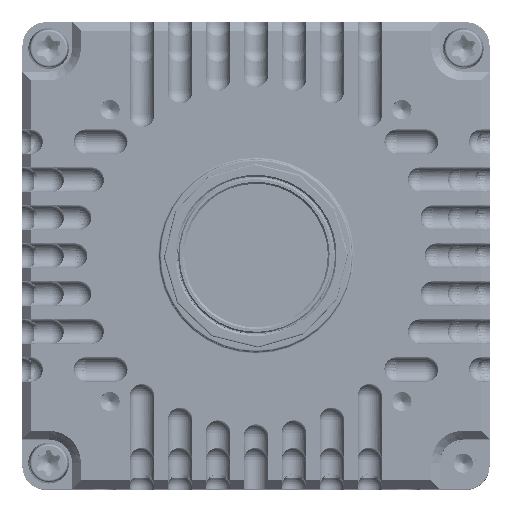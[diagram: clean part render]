
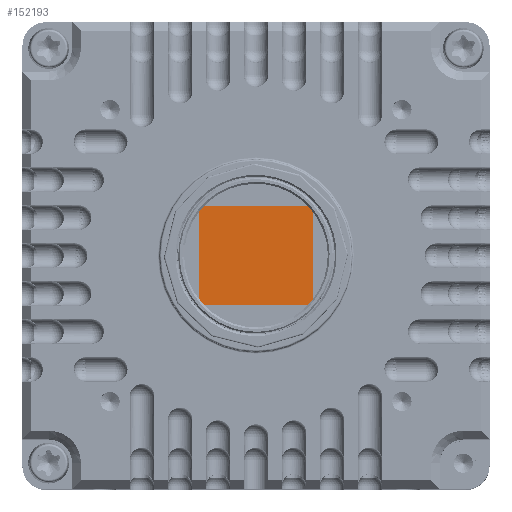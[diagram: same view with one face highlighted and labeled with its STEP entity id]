
A CAD part, top view. The second image highlights one B-rep face of the part: STEP entity #152193.
In plain terms, the highlighted planar face has unit normal (0, 0, 1).
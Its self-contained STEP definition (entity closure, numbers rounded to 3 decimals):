
#6526 = CARTESIAN_POINT ( 'NONE',  ( 9.8, 8.5, -6.65 ) ) ;
#8084 = ORIENTED_EDGE ( 'NONE', *, *, #204655, .T. ) ;
#12862 = CARTESIAN_POINT ( 'NONE',  ( -9.8, -8.5, -6.65 ) ) ;
#23022 = LINE ( 'NONE', #6526, #96204 ) ;
#23700 = VECTOR ( 'NONE', #212233, 1000. ) ;
#25456 = VERTEX_POINT ( 'NONE', #111908 ) ;
#26112 = VERTEX_POINT ( 'NONE', #33554 ) ;
#29205 = CARTESIAN_POINT ( 'NONE',  ( -9.8, 8.5, -6.65 ) ) ;
#33554 = CARTESIAN_POINT ( 'NONE',  ( 9.8, -8.5, -6.65 ) ) ;
#34725 = PLANE ( 'NONE',  #199269 ) ;
#42278 = DIRECTION ( 'NONE',  ( 0., 0., -1. ) ) ;
#54138 = VECTOR ( 'NONE', #79114, 1000. ) ;
#56056 = EDGE_CURVE ( 'NONE', #174139, #178964, #195951, .T. ) ;
#70669 = CARTESIAN_POINT ( 'NONE',  ( -9.8, 8.5, -6.65 ) ) ;
#72862 = DIRECTION ( 'NONE',  ( 0., 1., 0. ) ) ;
#79114 = DIRECTION ( 'NONE',  ( 1., 0., 0. ) ) ;
#80195 = LINE ( 'NONE', #180627, #146085 ) ;
#88943 = DIRECTION ( 'NONE',  ( -1., 0., 0. ) ) ;
#96204 = VECTOR ( 'NONE', #72862, 1000. ) ;
#99669 = EDGE_CURVE ( 'NONE', #25456, #26112, #178480, .T. ) ;
#102119 = FACE_OUTER_BOUND ( 'NONE', #214236, .T. ) ;
#108587 = CARTESIAN_POINT ( 'NONE',  ( 0., 0., -6.65 ) ) ;
#111908 = CARTESIAN_POINT ( 'NONE',  ( -9.8, -8.5, -6.65 ) ) ;
#130573 = ORIENTED_EDGE ( 'NONE', *, *, #154196, .T. ) ;
#146085 = VECTOR ( 'NONE', #152174, 1000. ) ;
#152174 = DIRECTION ( 'NONE',  ( 0., -1., 0. ) ) ;
#152193 = ADVANCED_FACE ( 'NONE', ( #102119 ), #34725, .F. ) ;
#154196 = EDGE_CURVE ( 'NONE', #26112, #174139, #23022, .T. ) ;
#157460 = CARTESIAN_POINT ( 'NONE',  ( 9.8, 8.5, -6.65 ) ) ;
#174139 = VERTEX_POINT ( 'NONE', #157460 ) ;
#178480 = LINE ( 'NONE', #12862, #54138 ) ;
#178964 = VERTEX_POINT ( 'NONE', #70669 ) ;
#180627 = CARTESIAN_POINT ( 'NONE',  ( -9.8, 8.5, -6.65 ) ) ;
#195951 = LINE ( 'NONE', #29205, #23700 ) ;
#199269 = AXIS2_PLACEMENT_3D ( 'NONE', #108587, #42278, #88943 ) ;
#201997 = ORIENTED_EDGE ( 'NONE', *, *, #56056, .T. ) ;
#204655 = EDGE_CURVE ( 'NONE', #178964, #25456, #80195, .T. ) ;
#209494 = ORIENTED_EDGE ( 'NONE', *, *, #99669, .T. ) ;
#212233 = DIRECTION ( 'NONE',  ( -1., 0., 0. ) ) ;
#214236 = EDGE_LOOP ( 'NONE', ( #130573, #201997, #8084, #209494 ) ) ;
